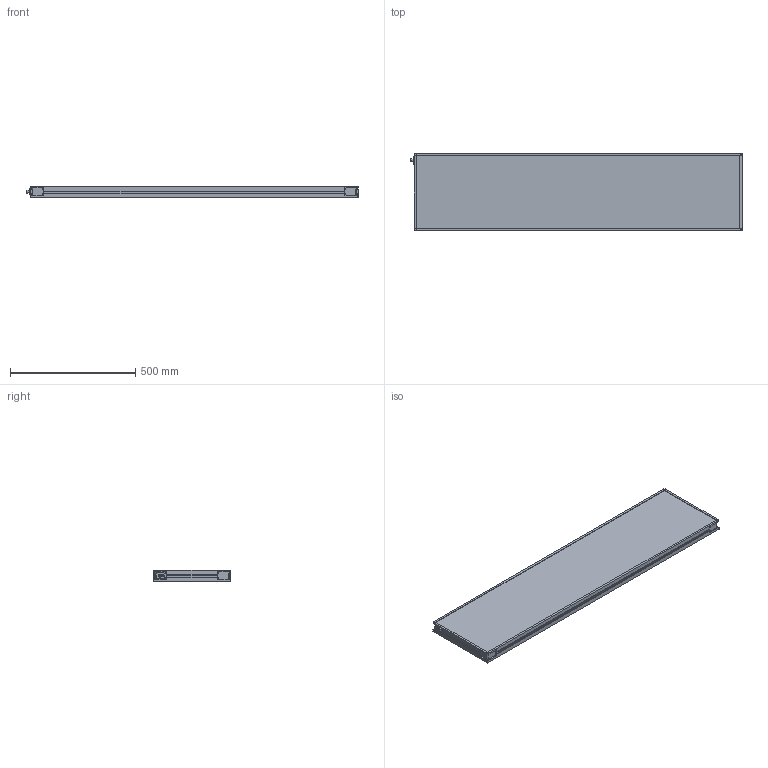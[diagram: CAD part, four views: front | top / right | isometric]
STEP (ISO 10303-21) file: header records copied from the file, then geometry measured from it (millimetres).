
FILE_DESCRIPTION (( 'STEP AP214' ), '1' );
FILE_NAME ('MBACK-xxxx-xxx-M1_CLIENT300x1300.STEP', '2022-03-31T16:00:21', ( '' ), ( '' ), 'SwSTEP 2.0', 'SolidWorks 2020', '' );
FILE_SCHEMA (( 'AUTOMOTIVE_DESIGN' ));
Length unit declared in the file: millimetre
Products named in the file (1): MBACK-xxxx-xxx-M1_CLIENT300x1300
Bounding box: 1325.9 x 308 x 45.5 mm (x, y, z)
Volume: 16721943.9 mm3; surface area: 1020307.8 mm2
Topology: 1 solids, 1 shells, 442 faces, 1144 edges, 760 vertices
Faces by surface type: plane 249, cylinder 105, bspline 80, cone 8
Entity records: 17236 total; most frequent: CARTESIAN_POINT 6699, ORIENTED_EDGE 2288, DIRECTION 1936, EDGE_CURVE 1144, VERTEX_POINT 760, LINE 758, VECTOR 758, AXIS2_PLACEMENT_3D 589
